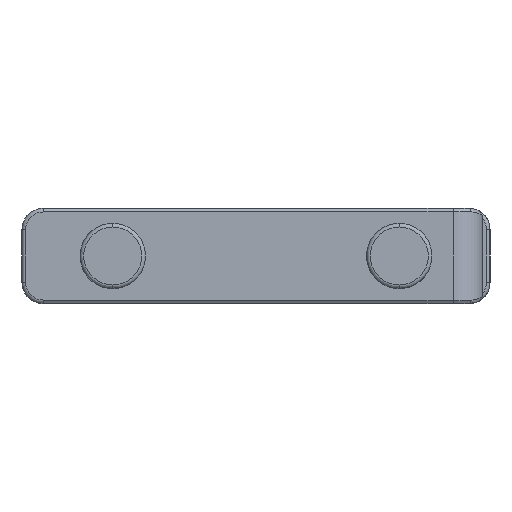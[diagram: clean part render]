
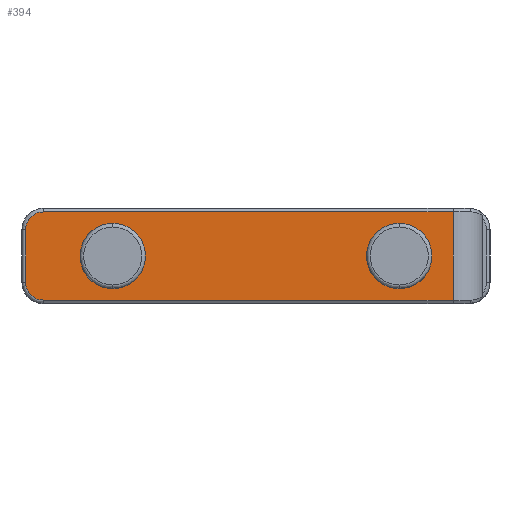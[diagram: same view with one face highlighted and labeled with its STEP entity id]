
A CAD part, left-side view. The second image highlights one B-rep face of the part: STEP entity #394.
In plain terms, the highlighted planar face has unit normal (-1, 0, 0).
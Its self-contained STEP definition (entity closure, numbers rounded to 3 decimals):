
#67 = VERTEX_POINT ( 'NONE', #801 ) ;
#381 = EDGE_LOOP ( 'NONE', ( #3071, #396, #420, #3073, #587, #586 ) ) ;
#387 = ORIENTED_EDGE ( 'NONE', *, *, #3188, .F. ) ;
#393 = ORIENTED_EDGE ( 'NONE', *, *, #3058, .F. ) ;
#394 = ADVANCED_FACE ( 'NONE', ( #1216, #1215, #1214 ), #1213, .F. ) ;
#395 = EDGE_LOOP ( 'NONE', ( #393, #387 ) ) ;
#396 = ORIENTED_EDGE ( 'NONE', *, *, #417, .T. ) ;
#414 = VERTEX_POINT ( 'NONE', #1279 ) ;
#417 = EDGE_CURVE ( 'NONE', #3072, #414, #1278, .T. ) ;
#418 = VERTEX_POINT ( 'NONE', #1274 ) ;
#420 = ORIENTED_EDGE ( 'NONE', *, *, #3070, .T. ) ;
#571 = ORIENTED_EDGE ( 'NONE', *, *, #580, .F. ) ;
#578 = EDGE_LOOP ( 'NONE', ( #571, #582 ) ) ;
#580 = EDGE_CURVE ( 'NONE', #2940, #2946, #1589, .T. ) ;
#582 = ORIENTED_EDGE ( 'NONE', *, *, #2960, .F. ) ;
#583 = EDGE_CURVE ( 'NONE', #592, #3074, #1584, .T. ) ;
#584 = EDGE_CURVE ( 'NONE', #418, #585, #1580, .T. ) ;
#585 = VERTEX_POINT ( 'NONE', #1576 ) ;
#586 = ORIENTED_EDGE ( 'NONE', *, *, #583, .T. ) ;
#587 = ORIENTED_EDGE ( 'NONE', *, *, #593, .T. ) ;
#592 = VERTEX_POINT ( 'NONE', #1635 ) ;
#593 = EDGE_CURVE ( 'NONE', #585, #592, #1634, .T. ) ;
#801 = CARTESIAN_POINT ( 'NONE',  ( -283.2, 19.5, 4.45 ) ) ;
#1209 = DIRECTION ( 'NONE',  ( 0., 0., -1. ) ) ;
#1210 = DIRECTION ( 'NONE',  ( 1., 0., 0. ) ) ;
#1211 = CARTESIAN_POINT ( 'NONE',  ( -283.2, -27.9, -2.9 ) ) ;
#1212 = AXIS2_PLACEMENT_3D ( 'NONE', #1211, #1210, #1209 ) ;
#1213 = PLANE ( 'NONE',  #1212 ) ;
#1214 = FACE_BOUND ( 'NONE', #578, .T. ) ;
#1215 = FACE_OUTER_BOUND ( 'NONE', #381, .T. ) ;
#1216 = FACE_BOUND ( 'NONE', #395, .T. ) ;
#1274 = CARTESIAN_POINT ( 'NONE',  ( -283.2, 31.35, 3.6 ) ) ;
#1275 = DIRECTION ( 'NONE',  ( 0., 1., 0. ) ) ;
#1276 = VECTOR ( 'NONE', #1275, 1000. ) ;
#1277 = CARTESIAN_POINT ( 'NONE',  ( -283.2, 28.95, 6. ) ) ;
#1278 = LINE ( 'NONE', #1277, #1276 ) ;
#1279 = CARTESIAN_POINT ( 'NONE',  ( -283.2, 28.95, 6. ) ) ;
#1576 = CARTESIAN_POINT ( 'NONE',  ( -283.2, 31.35, -3.6 ) ) ;
#1577 = DIRECTION ( 'NONE',  ( 0., 0., -1. ) ) ;
#1578 = VECTOR ( 'NONE', #1577, 1000. ) ;
#1579 = CARTESIAN_POINT ( 'NONE',  ( -283.2, 31.35, -3.6 ) ) ;
#1580 = LINE ( 'NONE', #1579, #1578 ) ;
#1581 = DIRECTION ( 'NONE',  ( 0., -1., 0. ) ) ;
#1582 = VECTOR ( 'NONE', #1581, 1000. ) ;
#1583 = CARTESIAN_POINT ( 'NONE',  ( -283.2, -26.82, -6. ) ) ;
#1584 = LINE ( 'NONE', #1583, #1582 ) ;
#1585 = DIRECTION ( 'NONE',  ( 0., 0., -1. ) ) ;
#1586 = DIRECTION ( 'NONE',  ( -1., 0., 0. ) ) ;
#1587 = CARTESIAN_POINT ( 'NONE',  ( -283.2, -19.5, 0. ) ) ;
#1588 = AXIS2_PLACEMENT_3D ( 'NONE', #1587, #1586, #1585 ) ;
#1589 = CIRCLE ( 'NONE', #1588, 4.45 ) ;
#1630 = DIRECTION ( 'NONE',  ( 0., 0., -1. ) ) ;
#1631 = DIRECTION ( 'NONE',  ( -1., 0., 0. ) ) ;
#1632 = CARTESIAN_POINT ( 'NONE',  ( -283.2, 28.95, -3.6 ) ) ;
#1633 = AXIS2_PLACEMENT_3D ( 'NONE', #1632, #1631, #1630 ) ;
#1634 = CIRCLE ( 'NONE', #1633, 2.4 ) ;
#1635 = CARTESIAN_POINT ( 'NONE',  ( -283.2, 28.95, -6. ) ) ;
#2156 = CARTESIAN_POINT ( 'NONE',  ( -283.2, -19.5, 4.45 ) ) ;
#2172 = CARTESIAN_POINT ( 'NONE',  ( -283.2, -19.5, -4.45 ) ) ;
#2211 = DIRECTION ( 'NONE',  ( 0., 0., -1. ) ) ;
#2212 = DIRECTION ( 'NONE',  ( -1., 0., 0. ) ) ;
#2213 = CARTESIAN_POINT ( 'NONE',  ( -283.2, -19.5, 0. ) ) ;
#2214 = AXIS2_PLACEMENT_3D ( 'NONE', #2213, #2212, #2211 ) ;
#2215 = CIRCLE ( 'NONE', #2214, 4.45 ) ;
#2515 = DIRECTION ( 'NONE',  ( 0., 0., -1. ) ) ;
#2516 = DIRECTION ( 'NONE',  ( -1., 0., 0. ) ) ;
#2517 = CARTESIAN_POINT ( 'NONE',  ( -283.2, 19.5, 0. ) ) ;
#2518 = AXIS2_PLACEMENT_3D ( 'NONE', #2517, #2516, #2515 ) ;
#2519 = CIRCLE ( 'NONE', #2518, 4.45 ) ;
#2539 = DIRECTION ( 'NONE',  ( 0., 0., -1. ) ) ;
#2540 = VECTOR ( 'NONE', #2539, 1000. ) ;
#2541 = CARTESIAN_POINT ( 'NONE',  ( -283.2, -26.82, -7.5 ) ) ;
#2547 = LINE ( 'NONE', #2541, #2540 ) ;
#2548 = CARTESIAN_POINT ( 'NONE',  ( -283.2, -26.82, -6. ) ) ;
#2549 = CARTESIAN_POINT ( 'NONE',  ( -283.2, -26.82, 6. ) ) ;
#2550 = DIRECTION ( 'NONE',  ( 0., 0., -1. ) ) ;
#2551 = DIRECTION ( 'NONE',  ( -1., 0., 0. ) ) ;
#2552 = CARTESIAN_POINT ( 'NONE',  ( -283.2, 28.95, 3.6 ) ) ;
#2553 = AXIS2_PLACEMENT_3D ( 'NONE', #2552, #2551, #2550 ) ;
#2554 = CIRCLE ( 'NONE', #2553, 2.4 ) ;
#2704 = CARTESIAN_POINT ( 'NONE',  ( -283.2, 19.5, -4.45 ) ) ;
#2730 = DIRECTION ( 'NONE',  ( 0., 0., -1. ) ) ;
#2731 = DIRECTION ( 'NONE',  ( -1., 0., 0. ) ) ;
#2732 = CARTESIAN_POINT ( 'NONE',  ( -283.2, 19.5, 0. ) ) ;
#2733 = AXIS2_PLACEMENT_3D ( 'NONE', #2732, #2731, #2730 ) ;
#2734 = CIRCLE ( 'NONE', #2733, 4.45 ) ;
#2940 = VERTEX_POINT ( 'NONE', #2172 ) ;
#2946 = VERTEX_POINT ( 'NONE', #2156 ) ;
#2960 = EDGE_CURVE ( 'NONE', #2946, #2940, #2215, .T. ) ;
#3058 = EDGE_CURVE ( 'NONE', #3169, #67, #2519, .T. ) ;
#3070 = EDGE_CURVE ( 'NONE', #414, #418, #2554, .T. ) ;
#3071 = ORIENTED_EDGE ( 'NONE', *, *, #3076, .F. ) ;
#3072 = VERTEX_POINT ( 'NONE', #2549 ) ;
#3073 = ORIENTED_EDGE ( 'NONE', *, *, #584, .T. ) ;
#3074 = VERTEX_POINT ( 'NONE', #2548 ) ;
#3076 = EDGE_CURVE ( 'NONE', #3072, #3074, #2547, .T. ) ;
#3169 = VERTEX_POINT ( 'NONE', #2704 ) ;
#3188 = EDGE_CURVE ( 'NONE', #67, #3169, #2734, .T. ) ;
